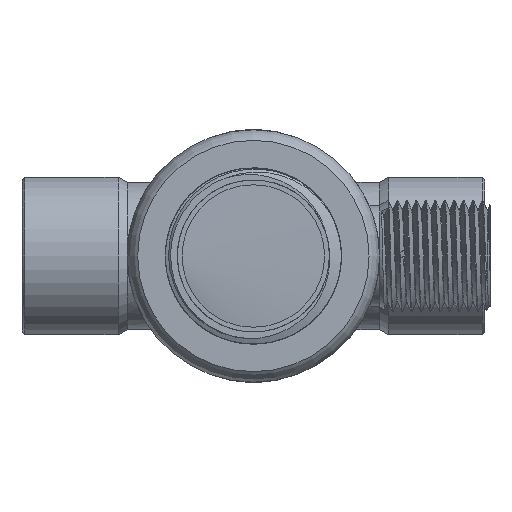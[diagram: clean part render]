
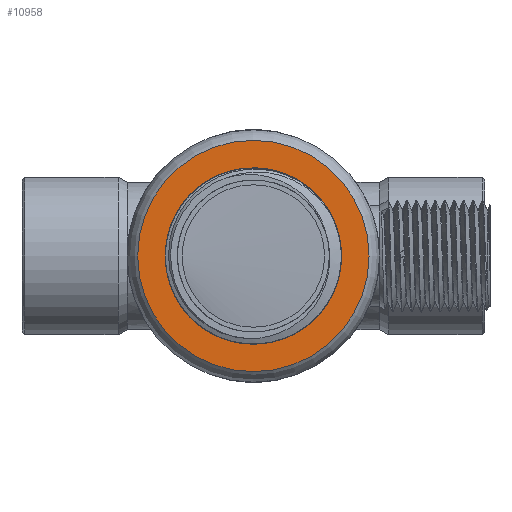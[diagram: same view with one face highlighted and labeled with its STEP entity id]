
A CAD part, left-side view. The second image highlights one B-rep face of the part: STEP entity #10958.
In plain terms, the highlighted planar face has unit normal (-1, 0, 0).
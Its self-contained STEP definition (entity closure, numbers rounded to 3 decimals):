
#205=PLANE('',#11720);
#366=FACE_BOUND('',#1832,.T.);
#372=CIRCLE('',#11017,16.75);
#373=CIRCLE('',#11018,16.75);
#452=CIRCLE('',#11358,22.);
#453=CIRCLE('',#11359,22.);
#1172=FACE_OUTER_BOUND('',#1831,.T.);
#1831=EDGE_LOOP('',(#10018,#10019));
#1832=EDGE_LOOP('',(#10020,#10021));
#4033=VERTEX_POINT('',#14973);
#4034=VERTEX_POINT('',#14975);
#4538=VERTEX_POINT('',#33514);
#4539=VERTEX_POINT('',#33516);
#5147=EDGE_CURVE('',#4033,#4034,#372,.T.);
#5148=EDGE_CURVE('',#4034,#4033,#373,.T.);
#5907=EDGE_CURVE('',#4539,#4538,#452,.T.);
#5908=EDGE_CURVE('',#4538,#4539,#453,.T.);
#10018=ORIENTED_EDGE('',*,*,#5907,.T.);
#10019=ORIENTED_EDGE('',*,*,#5908,.T.);
#10020=ORIENTED_EDGE('',*,*,#5148,.F.);
#10021=ORIENTED_EDGE('',*,*,#5147,.F.);
#10958=ADVANCED_FACE('',(#1172,#366),#205,.T.);
#11017=AXIS2_PLACEMENT_3D('',#14976,#11848,#11849);
#11018=AXIS2_PLACEMENT_3D('',#14977,#11850,#11851);
#11358=AXIS2_PLACEMENT_3D('',#33517,#12759,#12760);
#11359=AXIS2_PLACEMENT_3D('',#33518,#12761,#12762);
#11720=AXIS2_PLACEMENT_3D('',#47883,#13859,#13860);
#11848=DIRECTION('center_axis',(-1.,0.,0.));
#11849=DIRECTION('ref_axis',(0.,0.,1.));
#11850=DIRECTION('center_axis',(-1.,0.,0.));
#11851=DIRECTION('ref_axis',(0.,0.,1.));
#12759=DIRECTION('center_axis',(-1.,0.,0.));
#12760=DIRECTION('ref_axis',(0.,0.,1.));
#12761=DIRECTION('center_axis',(-1.,0.,0.));
#12762=DIRECTION('ref_axis',(0.,0.,1.));
#13859=DIRECTION('center_axis',(-1.,0.,0.));
#13860=DIRECTION('ref_axis',(0.,0.,1.));
#14973=CARTESIAN_POINT('',(-302.5,16.75,0.));
#14975=CARTESIAN_POINT('',(-302.5,-16.75,0.));
#14976=CARTESIAN_POINT('Origin',(-302.5,0.,
0.));
#14977=CARTESIAN_POINT('Origin',(-302.5,0.,
0.));
#33514=CARTESIAN_POINT('',(-302.5,0.,22.));
#33516=CARTESIAN_POINT('',(-302.5,-22.,0.));
#33517=CARTESIAN_POINT('Origin',(-302.5,0.,
0.));
#33518=CARTESIAN_POINT('Origin',(-302.5,0.,
0.));
#47883=CARTESIAN_POINT('Origin',(-302.5,-16.75,0.));
